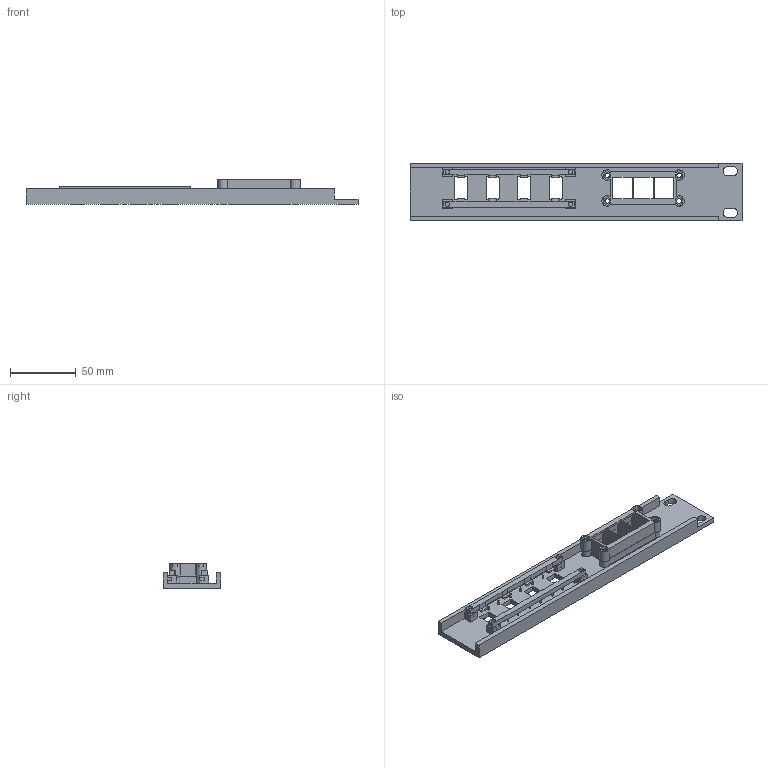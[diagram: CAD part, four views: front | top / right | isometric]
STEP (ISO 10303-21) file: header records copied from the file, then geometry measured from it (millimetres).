
FILE_DESCRIPTION(('Open CASCADE Model'),'2;1');
FILE_NAME('Open CASCADE Shape Model','2026-10-04T02:25:56',('Author'),( 'Open CASCADE'),'Open CASCADE STEP processor 7.8','Open CASCADE 7.8' ,'Unknown');
FILE_SCHEMA(('AUTOMOTIVE_DESIGN { 1 0 10303 214 1 1 1 1 }'));
Length unit declared in the file: millimetre
Products named in the file (5): SERVICE_PANEL_R2_CENTERED; Service_Panel_R2_Centered; USB_Lower_Rail_R2; USB_Upper_Rail_R2; Keystone_Rear_R2
Assembly tree (4 placements, depth 2):
  SERVICE_PANEL_R2_CENTERED
    Service_Panel_R2_Centered
    USB_Lower_Rail_R2
    USB_Upper_Rail_R2
    Keystone_Rear_R2
Bounding box: 252.93 x 44 x 19 mm (x, y, z)
Volume: 61095.4 mm3; surface area: 44656.5 mm2
Topology: 4 solids, 4 shells, 642 faces, 1749 edges, 1166 vertices
Faces by surface type: plane 457, extrusion 117, cylinder 68
Full cylindrical faces by diameter (mm): 3.4 x20
Entity records: 44858 total; most frequent: CARTESIAN_POINT 10305, DIRECTION 5934, VECTOR 4487, LINE 4370, ORIENTED_EDGE 3498, PCURVE 3498, DEFINITIONAL_REPRESENTATION 3498, EDGE_CURVE 1749
